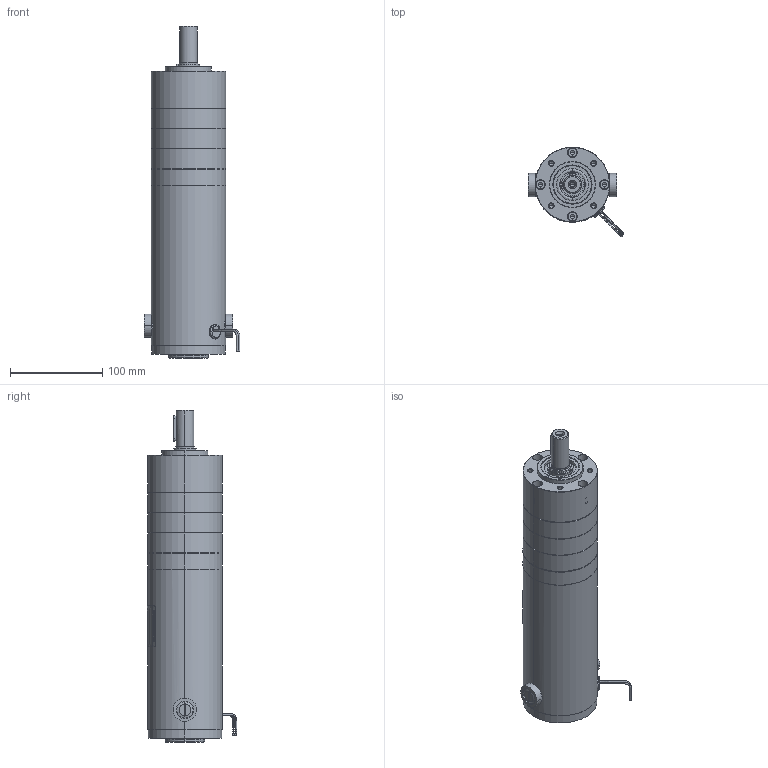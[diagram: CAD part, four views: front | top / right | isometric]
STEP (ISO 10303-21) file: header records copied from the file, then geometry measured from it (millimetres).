
FILE_DESCRIPTION (( 'STEP AP214' ), '1' );
FILE_NAME ('PM8018LV-PL8100i_3S.STEP', '2013-05-02T11:58:19', ( '' ), ( '' ), 'SwSTEP 2.0', 'SolidWorks 2013', '' );
FILE_SCHEMA (( 'AUTOMOTIVE_DESIGN' ));
Length unit declared in the file: inch
Products named in the file (1): PM8018LV-PL8100i_3S
Bounding box: 104.04 x 96.84 x 360.32 mm (x, y, z)
Surface area: 295201.9 mm2 (no closed solid volume)
Topology: 0 solids, 43 shells, 2327 faces, 6099 edges, 3893 vertices
Faces by surface type: cylinder 834, plane 749, bspline 322, torus 210, cone 175, sphere 37
Entity records: 123272 total; most frequent: CARTESIAN_POINT 36733, ORIENTED_EDGE 12034, DIRECTION 11199, EDGE_CURVE 6027, AXIS2_PLACEMENT_3D 4271, VERTEX_POINT 3876, VECTOR 2657, LINE 2657
